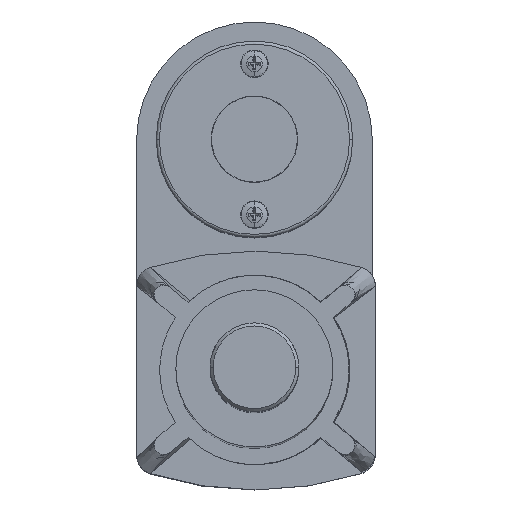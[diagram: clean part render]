
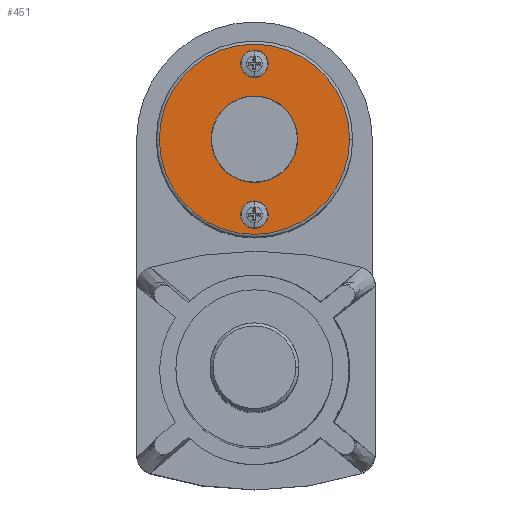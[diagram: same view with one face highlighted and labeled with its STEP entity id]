
A CAD part, top view. The second image highlights one B-rep face of the part: STEP entity #451.
In plain terms, the highlighted planar face has unit normal (0, 0, 1).
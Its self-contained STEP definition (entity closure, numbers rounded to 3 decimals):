
#16 = CARTESIAN_POINT ( 'NONE',  ( 38.608, -7.238, 406.098 ) ) ;
#152 = AXIS2_PLACEMENT_3D ( 'NONE', #16, #1627, #3392 ) ;
#257 = CARTESIAN_POINT ( 'NONE',  ( 38.608, -31.638, 406.098 ) ) ;
#312 = CARTESIAN_POINT ( 'NONE',  ( 7.858, -31.638, 406.098 ) ) ;
#375 = PLANE ( 'NONE',  #638 ) ;
#423 = CIRCLE ( 'NONE', #3478, 2.54 ) ;
#451 = ADVANCED_FACE ( 'NONE', ( #943, #9369, #1474 ), #375, .T. ) ;
#506 = DIRECTION ( 'NONE',  ( -1., 0., 0. ) ) ;
#638 = AXIS2_PLACEMENT_3D ( 'NONE', #257, #2042, #9598 ) ;
#824 = ORIENTED_EDGE ( 'NONE', *, *, #7444, .F. ) ;
#943 = FACE_BOUND ( 'NONE', #8459, .T. ) ;
#1136 = CIRCLE ( 'NONE', #9512, 30.75 ) ;
#1182 = DIRECTION ( 'NONE',  ( 0., 0., 1. ) ) ;
#1205 = DIRECTION ( 'NONE',  ( -1., 0., 0. ) ) ;
#1275 = VERTEX_POINT ( 'NONE', #312 ) ;
#1298 = CARTESIAN_POINT ( 'NONE',  ( 41.148, -56.038, 406.098 ) ) ;
#1308 = EDGE_CURVE ( 'NONE', #1275, #7011, #4362, .T. ) ;
#1459 = DIRECTION ( 'NONE',  ( -1., 0., 0. ) ) ;
#1474 = FACE_OUTER_BOUND ( 'NONE', #5910, .T. ) ;
#1627 = DIRECTION ( 'NONE',  ( 0., 0., 1. ) ) ;
#2042 = DIRECTION ( 'NONE',  ( 0., 0., 1. ) ) ;
#2244 = CARTESIAN_POINT ( 'NONE',  ( 38.608, -7.238, 406.098 ) ) ;
#2249 = CIRCLE ( 'NONE', #6590, 2.54 ) ;
#2475 = ORIENTED_EDGE ( 'NONE', *, *, #7950, .F. ) ;
#3018 = DIRECTION ( 'NONE',  ( 0., 0., 1. ) ) ;
#3280 = EDGE_CURVE ( 'NONE', #7011, #1275, #1136, .T. ) ;
#3392 = DIRECTION ( 'NONE',  ( -1., 0., 0. ) ) ;
#3478 = AXIS2_PLACEMENT_3D ( 'NONE', #2244, #3018, #4695 ) ;
#3518 = ORIENTED_EDGE ( 'NONE', *, *, #3280, .T. ) ;
#4362 = CIRCLE ( 'NONE', #10615, 30.75 ) ;
#4398 = CARTESIAN_POINT ( 'NONE',  ( 38.608, -31.638, 406.098 ) ) ;
#4523 = CARTESIAN_POINT ( 'NONE',  ( 38.608, -56.038, 406.098 ) ) ;
#4671 = ORIENTED_EDGE ( 'NONE', *, *, #5034, .F. ) ;
#4695 = DIRECTION ( 'NONE',  ( -1., 0., 0. ) ) ;
#5034 = EDGE_CURVE ( 'NONE', #6005, #8370, #8746, .T. ) ;
#5375 = CARTESIAN_POINT ( 'NONE',  ( 38.608, -56.038, 406.098 ) ) ;
#5433 = DIRECTION ( 'NONE',  ( 0., 0., 1. ) ) ;
#5652 = ORIENTED_EDGE ( 'NONE', *, *, #1308, .T. ) ;
#5910 = EDGE_LOOP ( 'NONE', ( #5652, #3518 ) ) ;
#6005 = VERTEX_POINT ( 'NONE', #7677 ) ;
#6124 = VERTEX_POINT ( 'NONE', #7861 ) ;
#6590 = AXIS2_PLACEMENT_3D ( 'NONE', #5375, #1182, #506 ) ;
#6870 = CIRCLE ( 'NONE', #6875, 2.54 ) ;
#6875 = AXIS2_PLACEMENT_3D ( 'NONE', #4523, #5433, #1205 ) ;
#7011 = VERTEX_POINT ( 'NONE', #7985 ) ;
#7138 = DIRECTION ( 'NONE',  ( 0., 0., 1. ) ) ;
#7444 = EDGE_CURVE ( 'NONE', #10617, #6124, #2249, .T. ) ;
#7677 = CARTESIAN_POINT ( 'NONE',  ( 41.148, -7.238, 406.098 ) ) ;
#7807 = EDGE_LOOP ( 'NONE', ( #2475, #4671 ) ) ;
#7861 = CARTESIAN_POINT ( 'NONE',  ( 36.068, -56.038, 406.098 ) ) ;
#7924 = EDGE_CURVE ( 'NONE', #6124, #10617, #6870, .T. ) ;
#7950 = EDGE_CURVE ( 'NONE', #8370, #6005, #423, .T. ) ;
#7985 = CARTESIAN_POINT ( 'NONE',  ( 69.358, -31.638, 406.098 ) ) ;
#8370 = VERTEX_POINT ( 'NONE', #10118 ) ;
#8459 = EDGE_LOOP ( 'NONE', ( #10691, #824 ) ) ;
#8650 = DIRECTION ( 'NONE',  ( -1., 0., 0. ) ) ;
#8741 = CARTESIAN_POINT ( 'NONE',  ( 38.608, -31.638, 406.098 ) ) ;
#8746 = CIRCLE ( 'NONE', #152, 2.54 ) ;
#9369 = FACE_BOUND ( 'NONE', #7807, .T. ) ;
#9512 = AXIS2_PLACEMENT_3D ( 'NONE', #8741, #7138, #1459 ) ;
#9598 = DIRECTION ( 'NONE',  ( -1., 0., 0. ) ) ;
#10118 = CARTESIAN_POINT ( 'NONE',  ( 36.068, -7.238, 406.098 ) ) ;
#10395 = DIRECTION ( 'NONE',  ( 0., 0., 1. ) ) ;
#10615 = AXIS2_PLACEMENT_3D ( 'NONE', #4398, #10395, #8650 ) ;
#10617 = VERTEX_POINT ( 'NONE', #1298 ) ;
#10691 = ORIENTED_EDGE ( 'NONE', *, *, #7924, .F. ) ;
